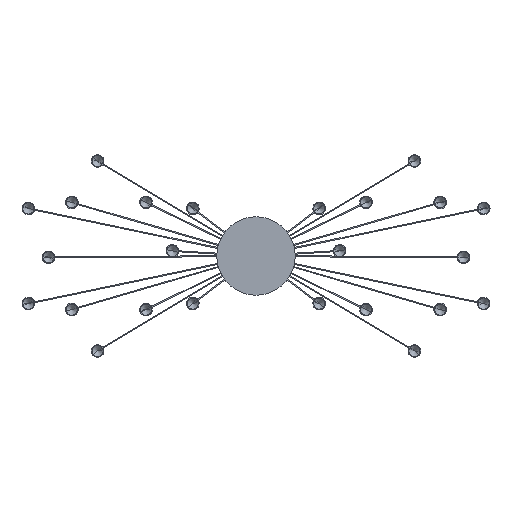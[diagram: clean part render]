
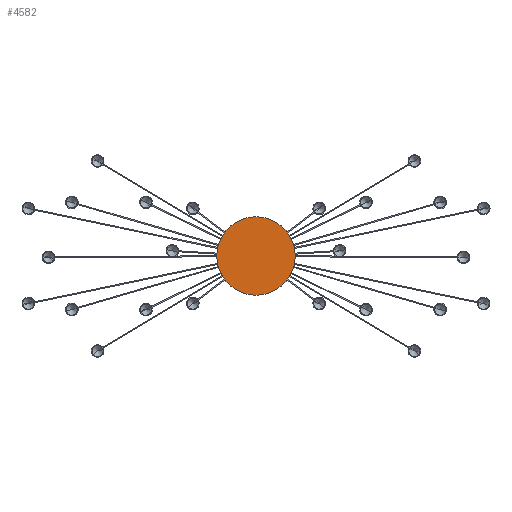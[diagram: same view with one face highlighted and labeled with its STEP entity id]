
A CAD part, front view. The second image highlights one B-rep face of the part: STEP entity #4582.
In plain terms, the highlighted planar face has unit normal (0, -1, 0).
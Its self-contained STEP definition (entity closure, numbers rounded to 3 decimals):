
#174 = DIRECTION ( 'NONE',  ( 0., 0., 1. ) ) ;
#419 = DIRECTION ( 'NONE',  ( 0., 1., 0. ) ) ;
#937 = CIRCLE ( 'NONE', #7844, 155. ) ;
#1559 = FACE_OUTER_BOUND ( 'NONE', #2780, .T. ) ;
#1922 = CARTESIAN_POINT ( 'NONE',  ( 0., 0., 0. ) ) ;
#1997 = VERTEX_POINT ( 'NONE', #3001 ) ;
#2245 = DIRECTION ( 'NONE',  ( 0., 1., 0. ) ) ;
#2780 = EDGE_LOOP ( 'NONE', ( #8332, #5319 ) ) ;
#3001 = CARTESIAN_POINT ( 'NONE',  ( 0., 0., 155. ) ) ;
#3319 = VERTEX_POINT ( 'NONE', #7327 ) ;
#4582 = ADVANCED_FACE ( 'NONE', ( #1559 ), #5266, .F. ) ;
#5266 = PLANE ( 'NONE',  #8430 ) ;
#5319 = ORIENTED_EDGE ( 'NONE', *, *, #7960, .F. ) ;
#5566 = CARTESIAN_POINT ( 'NONE',  ( 0., 0., 0. ) ) ;
#6076 = DIRECTION ( 'NONE',  ( 0., 0., 1. ) ) ;
#7103 = DIRECTION ( 'NONE',  ( 0., 1., 0. ) ) ;
#7234 = AXIS2_PLACEMENT_3D ( 'NONE', #5566, #419, #7666 ) ;
#7327 = CARTESIAN_POINT ( 'NONE',  ( 0., 0., -155. ) ) ;
#7539 = CIRCLE ( 'NONE', #7234, 155. ) ;
#7596 = EDGE_CURVE ( 'NONE', #3319, #1997, #937, .T. ) ;
#7666 = DIRECTION ( 'NONE',  ( 0., 0., 1. ) ) ;
#7844 = AXIS2_PLACEMENT_3D ( 'NONE', #1922, #7103, #6076 ) ;
#7960 = EDGE_CURVE ( 'NONE', #1997, #3319, #7539, .T. ) ;
#8141 = CARTESIAN_POINT ( 'NONE',  ( 0., 0., 0. ) ) ;
#8332 = ORIENTED_EDGE ( 'NONE', *, *, #7596, .F. ) ;
#8430 = AXIS2_PLACEMENT_3D ( 'NONE', #8141, #2245, #174 ) ;
